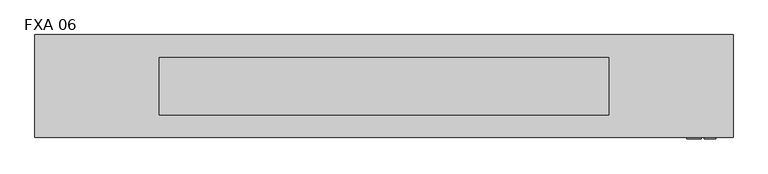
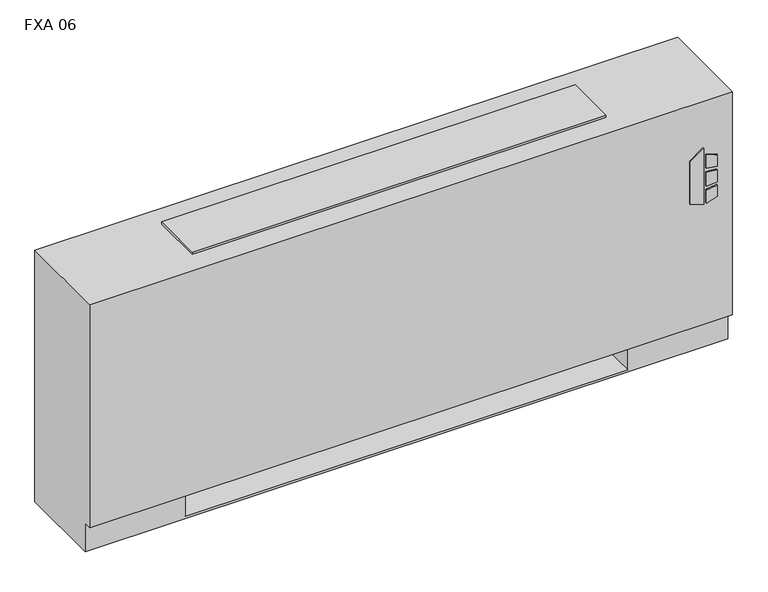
"""IFC4 building model written with IfcOpenShell, lengths in millimetres: proxy geometry, Vertical_Fan_Coil_Unit_-_FXA_-_IEC_-_2-Pipe_TS-FR_LH_2022 : FXA 06."""

from ifc_helpers import new_model, si_unit, point, frame, frame_2d, origin, place, context, project, spatial, polyline, circle_curve, trimmed, segment, composite_curve, outline, extrude, source, transform, mapped, element, save
from ifc_brep_helpers import plane_surface, revolved_surface, advanced_brep


def fxa_06_c5def053(model_context):
    return source(origin(), model_context, "Body", "SolidModel", [
        extrude(outline(polyline([(391.6086829, 823.9868862), (381.6606126, 856.1602728), (523.831537, 856.1602728), (500.8095309, 823.9868862), (391.6086829, 823.9868862)])), frame((0.0, 12.7, 0.0), z_axis=(0.0, 1.0, 0.0), x_axis=(0.0, 0.0, 1.0)), (0.0, 0.0, 1.0), 3.175),
        extrude(outline(polyline([(470.6079683, 862.9186058), (467.4055757, 889.0), (496.6344168, 889.0), (504.6988318, 862.9186058), (470.6079683, 862.9186058)])), frame((0.0, 12.7, 0.0), z_axis=(0.0, 1.0, 0.0), x_axis=(0.0, 0.0, 1.0)), (0.0, 0.0, 1.0), 3.175),
        extrude(outline(polyline([(418.7444414, 889.0), (415.0789404, 862.9186058), (381.6606126, 862.9186058), (390.2948498, 889.0), (418.7444414, 889.0)])), frame((0.0, 12.7, 0.0), z_axis=(0.0, 1.0, 0.0), x_axis=(0.0, 0.0, 1.0)), (0.0, 0.0, 1.0), 3.175),
        extrude(outline(polyline([(458.0596028, 889.0), (460.3414292, 862.9186058), (424.4038806, 862.9186058), (427.1451456, 889.0), (458.0596028, 889.0)])), frame((0.0, 12.7, 0.0), z_axis=(0.0, 1.0, 0.0), x_axis=(0.0, 0.0, 1.0)), (0.0, 0.0, 1.0), 3.175),
        extrude(outline(polyline([(806.45, 223.266), (806.45, 81.534), (685.8, 81.534), (685.8, 223.266), (806.45, 223.266)])), frame((0.0, 0.0, 327.025), z_axis=(0.0, 0.0, 1.0), x_axis=(1.0, 0.0, 0.0)), (0.0, 0.0, 1.0), 260.35),
        extrude(outline(composite_curve([segment(trimmed(circle_curve(frame_2d((-444.5, 130.175)), 9.525), [point((-454.025, 130.175))], [point((-434.975, 130.175))], False, "CARTESIAN"), True, "CONTINUOUS"), segment(trimmed(circle_curve(frame_2d((-444.5, 130.175)), 9.525), [point((-434.975, 130.175))], [point((-454.025, 130.175))], False, "CARTESIAN"), True, "CONTINUOUS")], self_intersect=False)), frame((0.0, 0.0, 101.6), z_axis=(0.0, 0.0, 1.0), x_axis=(1.0, 0.0, 0.0)), (0.0, 0.0, 1.0), 25.4),
        extrude(outline(polyline([(-539.75, 63.5), (-539.75, 196.85), (-381.0, 196.85), (-381.0, 63.5), (-539.75, 63.5)])), frame((0.0, 0.0, 127.0), z_axis=(0.0, 0.0, 1.0), x_axis=(1.0, 0.0, 0.0)), (0.0, 0.0, 1.0), 50.8),
        extrude(outline(composite_curve([segment(trimmed(circle_curve(frame_2d((93.1926, 485.5972)), 7.9375), [point((93.1926, 493.5347))], [point((93.1926, 477.6597))], False, "CARTESIAN"), True, "CONTINUOUS"), segment(trimmed(circle_curve(frame_2d((93.1926, 485.5972)), 7.9375), [point((93.1926, 477.6597))], [point((93.1926, 493.5347))], False, "CARTESIAN"), True, "CONTINUOUS")], self_intersect=False)), frame((-431.8, 0.0, 0.0), z_axis=(1.0, 0.0, 0.0), x_axis=(0.0, 1.0, 0.0)), (0.0, 0.0, 1.0), 50.8),
        extrude(outline(composite_curve([segment(trimmed(circle_curve(frame_2d((141.3002, 458.9526)), 7.9375), [point((141.3002, 466.8901))], [point((141.3002, 451.0151))], False, "CARTESIAN"), True, "CONTINUOUS"), segment(trimmed(circle_curve(frame_2d((141.3002, 458.9526)), 7.9375), [point((141.3002, 451.0151))], [point((141.3002, 466.8901))], False, "CARTESIAN"), True, "CONTINUOUS")], self_intersect=False)), frame((-431.8, 0.0, 0.0), z_axis=(1.0, 0.0, 0.0), x_axis=(0.0, 1.0, 0.0)), (0.0, 0.0, 1.0), 50.8),
        advanced_brep(
        [(927.1, 244.475, 641.35), (-622.3, 244.475, 641.35), (-622.3, 15.875, 641.35), (927.1, 15.875, 641.35), (-622.3, 244.475, 0.0), (927.1, 244.475, 0.0), (927.1, 34.925, 0.0), (-622.3, 34.925, 0.0), (685.8, 244.475, 73.025), (914.4, 244.475, 73.025), (914.4, 244.475, 628.65), (685.8, 244.475, 628.65), (685.8, 244.475, 414.8650565), (714.375, 244.475, 414.8650565), (714.375, 244.475, 385.2349435), (685.8, 244.475, 385.2349435), (685.8, 244.475, 287.3375), (714.375, 244.475, 287.3375), (714.375, 244.475, 258.7625), (685.8, 244.475, 258.7625), (685.8, 244.475, 141.2875), (714.375, 244.475, 141.2875), (714.375, 244.475, 112.7125), (685.8, 244.475, 112.7125), (-381.0, 244.475, 628.65), (-609.6, 244.475, 628.65), (-609.6, 244.475, 73.025), (-381.0, 244.475, 73.025), (-381.0, 244.475, 112.7125), (-409.575, 244.475, 112.7125), (-409.575, 244.475, 141.2875), (-381.0, 244.475, 141.2875), (-381.0, 244.475, 258.7625), (-409.575, 244.475, 258.7625), (-409.575, 244.475, 287.3375), (-381.0, 244.475, 287.3375), (-381.0, 244.475, 385.2349435), (-409.575, 244.475, 385.2349435), (-409.575, 244.475, 414.8650565), (-381.0, 244.475, 414.8650565), (704.0626, 244.475, 127.0), (692.9374, 244.475, 127.0), (704.0626, 244.475, 400.05), (692.9374, 244.475, 400.05), (704.0626, 244.475, 273.05), (692.9374, 244.475, 273.05), (-388.1374, 244.475, 127.0), (-399.2626, 244.475, 127.0), (-388.1374, 244.475, 273.05), (-399.2626, 244.475, 273.05), (-388.1374, 244.475, 400.05), (-399.2626, 244.475, 400.05), (-622.3, 34.925, 73.025), (-622.3, 15.875, 73.025), (927.1, 15.875, 73.025), (927.1, 34.925, 73.025), (-381.0, 34.925, 73.025), (-381.0, 219.075, 73.025), (685.8, 219.075, 73.025), (685.8, 34.925, 73.025), (685.8, 34.925, 6.35), (-381.0, 34.925, 6.35), (685.8, 41.275, 628.65), (914.4, 41.275, 628.65), (914.4, 41.275, 73.025), (685.8, 41.275, 73.025), (-381.0, 41.275, 628.65), (-381.0, 41.275, 73.025), (-609.6, 41.275, 73.025), (-609.6, 41.275, 628.65), (685.8, 219.075, 73.025), (685.8, 238.125, 112.7125), (685.8, 238.125, 141.2875), (685.8, 238.125, 258.7625), (685.8, 238.125, 287.3375), (685.8, 238.125, 385.2349435), (685.8, 238.125, 414.8650565), (-381.0, 219.075, 73.025), (-381.0, 238.125, 414.8650565), (-381.0, 238.125, 385.2349435), (-381.0, 238.125, 287.3375), (-381.0, 238.125, 258.7625), (-381.0, 238.125, 141.2875), (-381.0, 238.125, 112.7125), (-381.0, 219.075, 6.35), (685.8, 219.075, 6.35), (714.375, 238.125, 112.7125), (714.375, 238.125, 141.2875), (692.9374, 238.125, 127.0), (704.0626, 238.125, 127.0), (714.375, 238.125, 258.7625), (714.375, 238.125, 287.3375), (692.9374, 238.125, 273.05), (704.0626, 238.125, 273.05), (714.375, 238.125, 385.2349435), (714.375, 238.125, 414.8650565), (692.9374, 238.125, 400.05), (704.0626, 238.125, 400.05), (-409.575, 238.125, 141.2875), (-409.575, 238.125, 112.7125), (-399.2626, 238.125, 127.0), (-388.1374, 238.125, 127.0), (-409.575, 238.125, 287.3375), (-409.575, 238.125, 258.7625), (-399.2626, 238.125, 273.05), (-388.1374, 238.125, 273.05), (-409.575, 238.125, 414.8650565), (-409.575, 238.125, 385.2349435), (-399.2626, 238.125, 400.05), (-388.1374, 238.125, 400.05)],
        [
            (0, 1),
            (1, 2),
            (2, 3),
            (3, 0),
            (4, 5),
            (5, 6),
            (6, 7),
            (7, 4),
            (0, 5),
            (4, 1),
            (8, 9),
            (9, 10),
            (10, 11),
            (11, 12),
            (12, 13),
            (13, 14),
            (14, 15),
            (15, 16),
            (16, 17),
            (17, 18),
            (18, 19),
            (19, 20),
            (20, 21),
            (21, 22),
            (22, 23),
            (23, 8),
            (24, 25),
            (25, 26),
            (26, 27),
            (27, 28),
            (28, 29),
            (29, 30),
            (30, 31),
            (31, 32),
            (32, 33),
            (33, 34),
            (34, 35),
            (35, 36),
            (36, 37),
            (37, 38),
            (38, 39),
            (39, 24),
            (40, 41, circle_curve(frame((698.5, 244.475, 127.0), z_axis=(0.0, -1.0, 0.0), x_axis=(-1.0, 0.0, 0.0)), 5.5626)),
            (41, 40, circle_curve(frame((698.5, 244.475, 127.0), z_axis=(0.0, -1.0, 0.0), x_axis=(-1.0, 0.0, 0.0)), 5.5626)),
            (42, 43, circle_curve(frame((698.5, 244.475, 400.05), z_axis=(0.0, -1.0, 0.0), x_axis=(-1.0, 0.0, 0.0)), 5.5626)),
            (43, 42, circle_curve(frame((698.5, 244.475, 400.05), z_axis=(0.0, -1.0, 0.0), x_axis=(-1.0, 0.0, 0.0)), 5.5626)),
            (44, 45, circle_curve(frame((698.5, 244.475, 273.05), z_axis=(0.0, -1.0, 0.0), x_axis=(-1.0, 0.0, 0.0)), 5.5626)),
            (45, 44, circle_curve(frame((698.5, 244.475, 273.05), z_axis=(0.0, -1.0, 0.0), x_axis=(-1.0, 0.0, 0.0)), 5.5626)),
            (46, 47, circle_curve(frame((-393.7, 244.475, 127.0), z_axis=(0.0, -1.0, 0.0), x_axis=(-1.0, 0.0, 0.0)), 5.5626)),
            (47, 46, circle_curve(frame((-393.7, 244.475, 127.0), z_axis=(0.0, -1.0, 0.0), x_axis=(-1.0, 0.0, 0.0)), 5.5626)),
            (48, 49, circle_curve(frame((-393.7, 244.475, 273.05), z_axis=(0.0, -1.0, 0.0), x_axis=(-1.0, 0.0, 0.0)), 5.5626)),
            (49, 48, circle_curve(frame((-393.7, 244.475, 273.05), z_axis=(0.0, -1.0, 0.0), x_axis=(-1.0, 0.0, 0.0)), 5.5626)),
            (50, 51, circle_curve(frame((-393.7, 244.475, 400.05), z_axis=(0.0, -1.0, 0.0), x_axis=(-1.0, 0.0, 0.0)), 5.5626)),
            (51, 50, circle_curve(frame((-393.7, 244.475, 400.05), z_axis=(0.0, -1.0, 0.0), x_axis=(-1.0, 0.0, 0.0)), 5.5626)),
            (7, 52),
            (52, 53),
            (53, 2),
            (53, 54),
            (54, 3),
            (54, 55),
            (55, 6),
            (52, 56),
            (56, 57),
            (57, 58),
            (58, 59),
            (59, 55),
            (59, 60),
            (60, 61),
            (61, 56),
            (62, 63),
            (63, 64),
            (64, 65),
            (65, 62),
            (66, 67),
            (67, 68),
            (68, 69),
            (69, 66),
            (65, 70),
            (70, 8),
            (23, 71),
            (71, 72),
            (72, 20),
            (19, 73),
            (73, 74),
            (74, 16),
            (15, 75),
            (75, 76),
            (76, 12),
            (11, 62),
            (64, 9),
            (63, 10),
            (69, 25),
            (24, 66),
            (68, 26),
            (67, 77),
            (77, 27),
            (39, 78),
            (78, 79),
            (79, 36),
            (35, 80),
            (80, 81),
            (81, 32),
            (31, 82),
            (82, 83),
            (83, 28),
            (57, 84),
            (84, 85),
            (85, 58),
            (85, 60),
            (84, 61),
            (71, 86),
            (86, 87),
            (87, 72),
            (88, 89, circle_curve(frame((698.5, 238.125, 127.0), z_axis=(0.0, 1.0, 0.0), x_axis=(-1.0, 0.0, 0.0)), 5.5626)),
            (89, 88, circle_curve(frame((698.5, 238.125, 127.0), z_axis=(0.0, 1.0, 0.0), x_axis=(-1.0, 0.0, 0.0)), 5.5626)),
            (73, 90),
            (90, 91),
            (91, 74),
            (92, 93, circle_curve(frame((698.5, 238.125, 273.05), z_axis=(0.0, 1.0, 0.0), x_axis=(-1.0, 0.0, 0.0)), 5.5626)),
            (93, 92, circle_curve(frame((698.5, 238.125, 273.05), z_axis=(0.0, 1.0, 0.0), x_axis=(-1.0, 0.0, 0.0)), 5.5626)),
            (75, 94),
            (94, 95),
            (95, 76),
            (96, 97, circle_curve(frame((698.5, 238.125, 400.05), z_axis=(0.0, 1.0, 0.0), x_axis=(-1.0, 0.0, 0.0)), 5.5626)),
            (97, 96, circle_curve(frame((698.5, 238.125, 400.05), z_axis=(0.0, 1.0, 0.0), x_axis=(-1.0, 0.0, 0.0)), 5.5626)),
            (98, 99),
            (99, 83),
            (82, 98),
            (100, 101, circle_curve(frame((-393.7, 238.125, 127.0), z_axis=(0.0, 1.0, 0.0), x_axis=(-1.0, 0.0, 0.0)), 5.5626)),
            (101, 100, circle_curve(frame((-393.7, 238.125, 127.0), z_axis=(0.0, 1.0, 0.0), x_axis=(-1.0, 0.0, 0.0)), 5.5626)),
            (102, 103),
            (103, 81),
            (80, 102),
            (104, 105, circle_curve(frame((-393.7, 238.125, 273.05), z_axis=(0.0, 1.0, 0.0), x_axis=(-1.0, 0.0, 0.0)), 5.5626)),
            (105, 104, circle_curve(frame((-393.7, 238.125, 273.05), z_axis=(0.0, 1.0, 0.0), x_axis=(-1.0, 0.0, 0.0)), 5.5626)),
            (106, 107),
            (107, 79),
            (78, 106),
            (108, 109, circle_curve(frame((-393.7, 238.125, 400.05), z_axis=(0.0, 1.0, 0.0), x_axis=(-1.0, 0.0, 0.0)), 5.5626)),
            (109, 108, circle_curve(frame((-393.7, 238.125, 400.05), z_axis=(0.0, 1.0, 0.0), x_axis=(-1.0, 0.0, 0.0)), 5.5626)),
            (87, 21),
            (86, 22),
            (91, 17),
            (90, 18),
            (95, 13),
            (94, 14),
            (30, 98),
            (99, 29),
            (34, 102),
            (103, 33),
            (38, 106),
            (107, 37),
            (88, 41),
            (40, 89),
            (96, 43),
            (42, 97),
            (92, 45),
            (44, 93),
            (100, 47),
            (46, 101),
            (104, 49),
            (48, 105),
            (108, 51),
            (50, 109),
        ],
        [
            plane_surface(frame((-622.3, 244.475, 641.35), z_axis=(0.0, 0.0, 1.0), x_axis=(-1.0, 0.0, 0.0))),
            plane_surface(frame((-622.3, 244.475, 0.0), z_axis=(0.0, 0.0, -1.0), x_axis=(1.0, 0.0, 0.0))),
            plane_surface(frame((927.1, 244.475, 641.35), z_axis=(0.0, 1.0, 0.0), x_axis=(0.0, 0.0, -1.0))),
            plane_surface(frame((-622.3, 244.475, 641.35), z_axis=(-1.0, 0.0, 0.0), x_axis=(0.0, 0.0, -1.0))),
            plane_surface(frame((-622.3, 15.875, 641.35), z_axis=(0.0, -1.0, 0.0), x_axis=(0.0, 0.0, -1.0))),
            plane_surface(frame((927.1, 15.875, 641.35), z_axis=(1.0, 0.0, 0.0), x_axis=(0.0, 0.0, -1.0))),
            plane_surface(frame((-622.3, 15.875, 73.025), z_axis=(0.0, 0.0, -1.0), x_axis=(1.0, 0.0, 0.0))),
            plane_surface(frame((-622.3, 34.925, 73.025), z_axis=(0.0, -1.0, 0.0), x_axis=(1.0, 0.0, 0.0))),
            plane_surface(frame((685.8, 41.275, 628.65), z_axis=(0.0, 1.0, 0.0), x_axis=(0.0, 0.0, -1.0))),
            plane_surface(frame((685.8, 41.275, 628.65), z_axis=(1.0, 0.0, 0.0), x_axis=(0.0, 1.0, 0.0))),
            plane_surface(frame((685.8, 41.275, 73.025), z_axis=(0.0, 0.0, 1.0), x_axis=(0.0, 1.0, 0.0))),
            plane_surface(frame((914.4, 41.275, 73.025), z_axis=(-1.0, 0.0, 0.0), x_axis=(0.0, 1.0, 0.0))),
            plane_surface(frame((914.4, 41.275, 628.65), z_axis=(0.0, 0.0, -1.0), x_axis=(0.0, 1.0, 0.0))),
            plane_surface(frame((-381.0, 41.275, 628.65), z_axis=(0.0, 0.0, -1.0), x_axis=(0.0, 1.0, 0.0))),
            plane_surface(frame((-609.6, 41.275, 628.65), z_axis=(1.0, 0.0, 0.0), x_axis=(0.0, 1.0, 0.0))),
            plane_surface(frame((-609.6, 41.275, 73.025), z_axis=(0.0, 0.0, 1.0), x_axis=(0.0, 1.0, 0.0))),
            plane_surface(frame((-381.0, 41.275, 73.025), z_axis=(-1.0, 0.0, 0.0), x_axis=(0.0, 1.0, 0.0))),
            plane_surface(frame((685.8, 219.075, 73.025), z_axis=(0.0, -1.0, 0.0), x_axis=(0.0, 0.0, -1.0))),
            plane_surface(frame((685.8, 219.075, 73.025), z_axis=(-1.0, 0.0, 0.0), x_axis=(0.0, -1.0, 0.0))),
            plane_surface(frame((685.8, 219.075, 6.35), z_axis=(0.0, 0.0, 1.0), x_axis=(0.0, -1.0, 0.0))),
            plane_surface(frame((-381.0, 219.075, 6.35), z_axis=(1.0, 0.0, 0.0), x_axis=(0.0, -1.0, 0.0))),
            plane_surface(frame((714.375, 238.125, 141.2875), z_axis=(0.0, -1.0, 0.0), x_axis=(-1.0, 0.0, 0.0))),
            plane_surface(frame((685.8, 244.475, 141.2875), z_axis=(0.0, 0.0, 1.0), x_axis=(0.0, -1.0, 0.0))),
            plane_surface(frame((714.375, 244.475, 141.2875), z_axis=(1.0, 0.0, 0.0), x_axis=(0.0, -1.0, 0.0))),
            plane_surface(frame((714.375, 244.475, 112.7125), z_axis=(0.0, 0.0, -1.0), x_axis=(0.0, -1.0, 0.0))),
            plane_surface(frame((685.8, 244.475, 287.3375), z_axis=(0.0, 0.0, 1.0), x_axis=(0.0, -1.0, 0.0))),
            plane_surface(frame((714.375, 244.475, 287.3375), z_axis=(1.0, 0.0, 0.0), x_axis=(0.0, -1.0, 0.0))),
            plane_surface(frame((714.375, 244.475, 258.7625), z_axis=(0.0, 0.0, -1.0), x_axis=(0.0, -1.0, 0.0))),
            plane_surface(frame((685.8, 244.475, 414.8650565), z_axis=(0.0, 0.0, 1.0), x_axis=(0.0, -1.0, 0.0))),
            plane_surface(frame((714.375, 244.475, 414.8650565), z_axis=(1.0, 0.0, 0.0), x_axis=(0.0, -1.0, 0.0))),
            plane_surface(frame((714.375, 244.475, 385.2349435), z_axis=(0.0, 0.0, -1.0), x_axis=(0.0, -1.0, 0.0))),
            plane_surface(frame((-409.575, 244.475, 141.2875), z_axis=(0.0, 0.0, 1.0), x_axis=(0.0, -1.0, 0.0))),
            plane_surface(frame((-381.0, 244.475, 112.7125), z_axis=(0.0, 0.0, -1.0), x_axis=(0.0, -1.0, 0.0))),
            plane_surface(frame((-409.575, 244.475, 112.7125), z_axis=(-1.0, 0.0, 0.0), x_axis=(0.0, -1.0, 0.0))),
            plane_surface(frame((-409.575, 244.475, 287.3375), z_axis=(0.0, 0.0, 1.0), x_axis=(0.0, -1.0, 0.0))),
            plane_surface(frame((-381.0, 244.475, 258.7625), z_axis=(0.0, 0.0, -1.0), x_axis=(0.0, -1.0, 0.0))),
            plane_surface(frame((-409.575, 244.475, 258.7625), z_axis=(-1.0, 0.0, 0.0), x_axis=(0.0, -1.0, 0.0))),
            plane_surface(frame((-409.575, 244.475, 414.8650565), z_axis=(0.0, 0.0, 1.0), x_axis=(0.0, -1.0, 0.0))),
            plane_surface(frame((-381.0, 244.475, 385.2349435), z_axis=(0.0, 0.0, -1.0), x_axis=(0.0, -1.0, 0.0))),
            plane_surface(frame((-409.575, 244.475, 385.2349435), z_axis=(-1.0, 0.0, 0.0), x_axis=(0.0, -1.0, 0.0))),
            revolved_surface(polyline([(692.9374, 238.125, 127.0), (692.9374, 244.475, 127.0)]), (698.5, 244.475, 127.0), (0.0, -1.0, 0.0)),
            revolved_surface(polyline([(692.9374, 238.125, 400.05), (692.9374, 244.475, 400.05)]), (698.5, 244.475, 400.05), (0.0, -1.0, 0.0)),
            revolved_surface(polyline([(692.9374, 238.125, 273.05), (692.9374, 244.475, 273.05)]), (698.5, 244.475, 273.05), (0.0, -1.0, 0.0)),
            revolved_surface(polyline([(-399.26259999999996, 238.125, 127.0), (-399.26259999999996, 244.475, 127.0)]), (-393.7, 244.475, 127.0), (0.0, -1.0, 0.0)),
            revolved_surface(polyline([(-399.26259999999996, 238.125, 273.05), (-399.26259999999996, 244.475, 273.05)]), (-393.7, 244.475, 273.05), (0.0, -1.0, 0.0)),
            revolved_surface(polyline([(-399.26259999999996, 238.125, 400.05), (-399.26259999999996, 244.475, 400.05)]), (-393.7, 244.475, 400.05), (0.0, -1.0, 0.0)),
        ],
        [
            (0, [[1, 2, 3, 4]]),
            (1, [[5, 6, 7, 8]]),
            (2, [[-1, 9, -5, 10], [11, 12, 13, 14, 15, 16, 17, 18, 19, 20, 21, 22, 23, 24, 25, 26], [27, 28, 29, 30, 31, 32, 33, 34, 35, 36, 37, 38, 39, 40, 41, 42], [43, 44], [45, 46], [47, 48], [49, 50], [51, 52], [53, 54]]),
            (3, [[-2, -10, -8, 55, 56, 57]]),
            (4, [[-3, -57, 58, 59]]),
            (5, [[-4, -59, 60, 61, -6, -9]]),
            (6, [[-56, 62, 63, 64, 65, 66, -60, -58]]),
            (7, [[-7, -61, -66, 67, 68, 69, -62, -55]]),
            (8, [[70, 71, 72, 73]]),
            (8, [[74, 75, 76, 77]]),
            (9, [[-73, 78, 79, -26, 80, 81, 82, -22, 83, 84, 85, -18, 86, 87, 88, -14, 89]]),
            (10, [[-72, 90, -11, -79, -78]]),
            (11, [[-71, 91, -12, -90]]),
            (12, [[-70, -89, -13, -91]]),
            (13, [[-77, 92, -27, 93]]),
            (14, [[-76, 94, -28, -92]]),
            (15, [[-75, 95, 96, -29, -94]]),
            (16, [[-74, -93, -42, 97, 98, 99, -38, 100, 101, 102, -34, 103, 104, 105, -30, -96, -95]]),
            (17, [[-64, 106, 107, 108]]),
            (18, [[-108, 109, -67, -65]]),
            (19, [[-107, 110, -68, -109]]),
            (20, [[-106, -63, -69, -110]]),
            (21, [[111, 112, 113, -81], [114, 115]]),
            (21, [[116, 117, 118, -84], [119, 120]]),
            (21, [[121, 122, 123, -87], [124, 125]]),
            (21, [[126, 127, -104, 128], [129, 130]]),
            (21, [[131, 132, -101, 133], [134, 135]]),
            (21, [[136, 137, -98, 138], [139, 140]]),
            (22, [[-113, 141, -23, -82]]),
            (23, [[-112, 142, -24, -141]]),
            (24, [[-111, -80, -25, -142]]),
            (25, [[-118, 143, -19, -85]]),
            (26, [[-117, 144, -20, -143]]),
            (27, [[-116, -83, -21, -144]]),
            (28, [[-123, 145, -15, -88]]),
            (29, [[-122, 146, -16, -145]]),
            (30, [[-121, -86, -17, -146]]),
            (31, [[-128, -103, -33, 147]]),
            (32, [[-127, 148, -31, -105]]),
            (33, [[-126, -147, -32, -148]]),
            (34, [[-133, -100, -37, 149]]),
            (35, [[-132, 150, -35, -102]]),
            (36, [[-131, -149, -36, -150]]),
            (37, [[-138, -97, -41, 151]]),
            (38, [[-137, 152, -39, -99]]),
            (39, [[-136, -151, -40, -152]]),
            (40, [[153, -43, 154, -114]]),
            (40, [[-153, -115, -154, -44]]),
            (41, [[155, -45, 156, -124]]),
            (41, [[-155, -125, -156, -46]]),
            (42, [[157, -47, 158, -119]]),
            (42, [[-157, -120, -158, -48]]),
            (43, [[159, -49, 160, -129]]),
            (43, [[-159, -130, -160, -50]]),
            (44, [[161, -51, 162, -134]]),
            (44, [[-161, -135, -162, -52]]),
            (45, [[163, -53, 164, -139]]),
            (45, [[-163, -140, -164, -54]]),
        ],
    ),
        extrude(outline(polyline([(650.875, 193.675), (650.875, 66.675), (-346.075, 66.675), (-346.075, 193.675), (650.875, 193.675)])), frame((0.0, 0.0, 641.35), z_axis=(0.0, 0.0, 1.0), x_axis=(1.0, 0.0, 0.0)), (0.0, 0.0, 1.0), 6.35),
    ])


if __name__ == "__main__":
    model = new_model("IFC4")
    model_context = context("Model", 3, world=origin())
    ifc_project = project(units=[si_unit("LENGTHUNIT", "METRE", prefix="MILLI")], contexts=[model_context])
    site = spatial("IfcSite", under=ifc_project)
    building = spatial("IfcBuilding", under=site)
    placement = place(None, origin())
    fxa_06_shape = fxa_06_c5def053(model_context)
    element("IfcBuildingElementProxy", 1, Name="Vertical_Fan_Coil_Unit_-_FXA_-_IEC_-_2-Pipe_TS-FR_LH_2022 : FXA 06", ObjectType="Vertical_Fan_Coil_Unit_-_FXA_-_IEC_-_2-Pipe_TS-FR_LH_2022 : FXA 06", at=placement, inside=building, context=model_context, shape_type="MappedRepresentation", body=[
        mapped(fxa_06_shape, transform((0.0, 0.0, 0.0), x_axis=(1.0, 0.0, 0.0), y_axis=(0.0, 1.0, 0.0), z_axis=(0.0, 0.0, 1.0))),
    ])
    save(model, "model.ifc")
